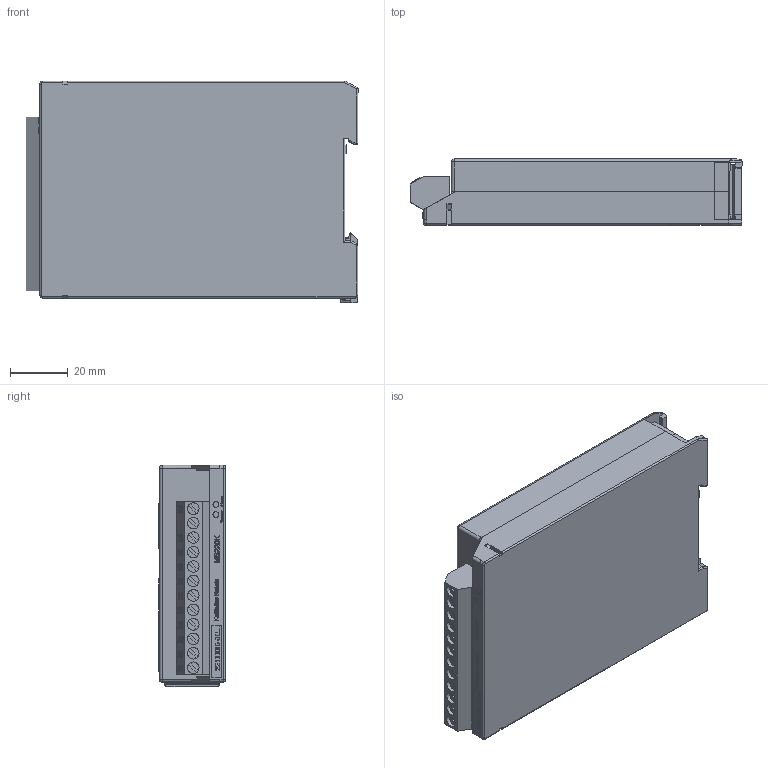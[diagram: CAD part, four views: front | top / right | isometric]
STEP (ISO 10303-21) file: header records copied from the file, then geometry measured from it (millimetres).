
FILE_DESCRIPTION (( 'STEP AP214' ), '1' );
FILE_NAME ('12710-1903-01_MS_3D.STEP', '2016-12-05T13:11:40', ( '' ), ( '' ), 'SwSTEP 2.0', 'SolidWorks 2017', '' );
FILE_SCHEMA (( 'AUTOMOTIVE_DESIGN' ));
Length unit declared in the file: millimetre
Products named in the file (10): Kopie von 12710-1204-01_MS Typenschild_3D^12710-1903-01_MS_3D; Kopie von 1149 1210_MS_Klemmen^12710-1903-01_MS_3D; Kopie von 1045 1940 K-UT_3D^12710-1903-01_MS_3D; Kopie von LED - MS^12710-1903-01_MS_3D; pan head cross recess screw_din_ISO 7045 - M3 x 4 - Z --- 4N; Kopie von 31147112^12710-1903-01_MS_3D; Kopie von K-Riegel^12710-1903-01_MS_3D; 12710-1903-01_MS_3D; Kopie von K-Leiterpklatte 60 lang^12710-1903-01_MS_3D; Kopie von 1045 1920 K-Deckel^12710-1903-01_MS_3D
Assembly tree (9 placements, depth 2):
  12710-1903-01_MS_3D
    Kopie von 1045 1940 K-UT_3D^12710-1903-01_MS_3D
    Kopie von LED - MS^12710-1903-01_MS_3D
    Kopie von 1045 1920 K-Deckel^12710-1903-01_MS_3D
    Kopie von K-Leiterpklatte 60 lang^12710-1903-01_MS_3D
    pan head cross recess screw_din_ISO 7045 - M3 x 4 - Z --- 4N
    Kopie von 12710-1204-01_MS Typenschild_3D^12710-1903-01_MS_3D
    Kopie von 31147112^12710-1903-01_MS_3D
    Kopie von 1149 1210_MS_Klemmen^12710-1903-01_MS_3D
    Kopie von K-Riegel^12710-1903-01_MS_3D
Bounding box: 114.78 x 22.94 x 76.65 mm (x, y, z)
Volume: 51391.8 mm3; surface area: 64897.7 mm2
Topology: 321 solids, 321 shells, 4088 faces, 9966 edges, 6568 vertices
Faces by surface type: plane 3130, bspline 713, cylinder 178, cone 25, sphere 22, torus 20
Full cylindrical faces by diameter (mm): 1 x12, 1.5 x7, 2 x2, 2.8 x2, 3 x12, 3.1 x12, 3.6 x1, 4 x12, 4.2 x1, 5.6 x1, 6 x1, 6.8 x1, 7 x1, 7.2 x1, 9 x1
Entity records: 139439 total; most frequent: CARTESIAN_POINT 42242, ORIENTED_EDGE 19656, DIRECTION 15472, EDGE_CURVE 9828, VECTOR 7934, LINE 7934, VERTEX_POINT 6543, EDGE_LOOP 4453
